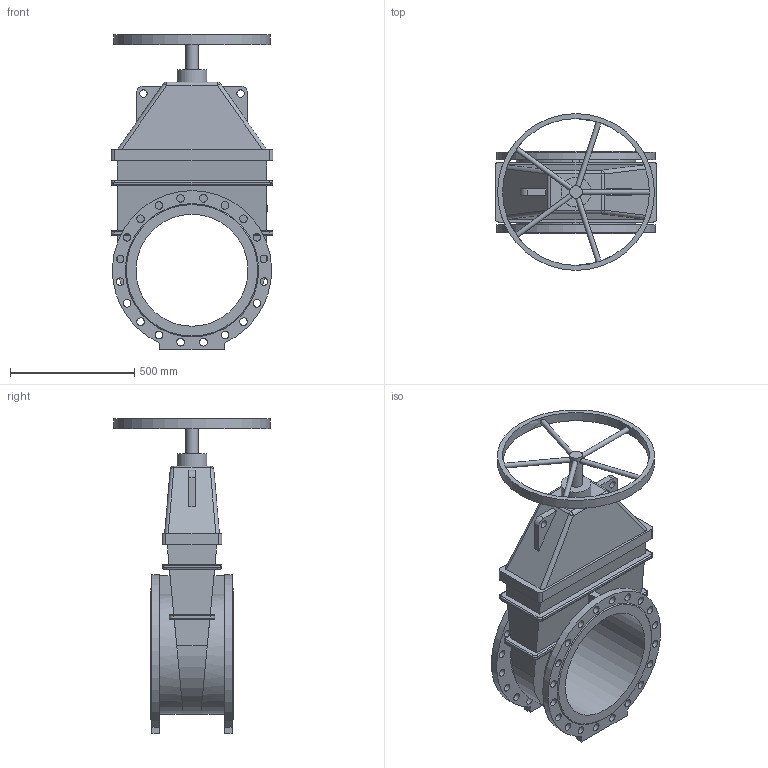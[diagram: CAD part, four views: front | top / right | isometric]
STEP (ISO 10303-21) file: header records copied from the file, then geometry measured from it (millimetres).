
FILE_DESCRIPTION(('STEP AP203'), '1');
FILE_NAME('Çàäâèæêà 47GV DN450 PN16_L330_W630 ñ ìàõîâèêîì', '', ('UNSPECIFIED'), ('UNSPECIFIED'), 'ASCON STEP Converter 1.6', 'ASCON Math Kernel', '');
FILE_SCHEMA(('CONFIG_CONTROL_DESIGN'));
Length unit declared in the file: millimetre
Bounding box: 650 x 630 x 1269 mm (x, y, z)
Volume: 80684688.2 mm3; surface area: 3116895.5 mm2
Topology: 1 solids, 1 shells, 211 faces, 537 edges, 340 vertices
Faces by surface type: cylinder 107, plane 82, bspline 12, torus 8, cone 2
Full cylindrical faces by diameter (mm): 20 x5, 30 x2, 31 x40, 50 x1, 120 x1, 450 x1, 590 x1, 630 x1
Entity records: 10285 total; most frequent: CARTESIAN_POINT 3512, DIRECTION 1020, ORIENTED_EDGE 956, EDGE_CURVE 478, AXIS2_PLACEMENT_3D 394, EDGE_LOOP 378, VERTEX_POINT 340, FACE_BOUND 271
